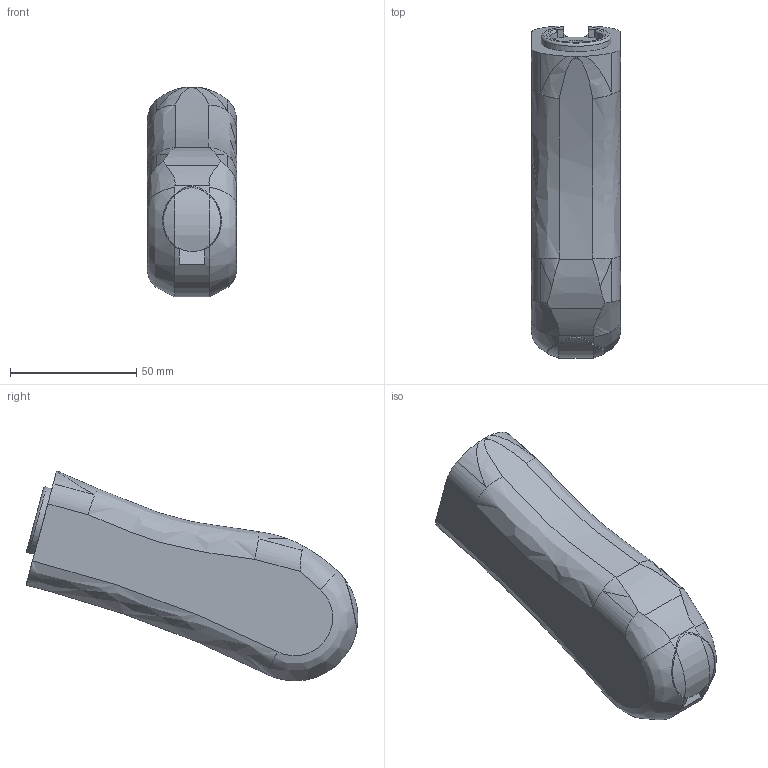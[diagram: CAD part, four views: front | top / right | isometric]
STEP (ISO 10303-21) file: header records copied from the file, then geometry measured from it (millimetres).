
FILE_DESCRIPTION(/* description */ (''),/* implementation_level */ '2;1');
FILE_NAME(/* name */ 'G:/Developer/Repos/Superstar-15/STEPs/Grip/Birdshead Grip.step',/* time_stamp */ '2020-10-31T21:54:54-04:00',/* author */ (''),/* organization */ (''),/* preprocessor_version */ 'ST-DEVELOPER v18.1',/* originating_system */ 'Autodesk Translation Framework v9.3.0.1241',/* authorisation */ '');
FILE_SCHEMA (('AUTOMOTIVE_DESIGN { 1 0 10303 214 3 1 1 }'));
Length unit declared in the file: millimetre
Products named in the file (1): Birdshead Grip
Bounding box: 35.27 x 131.4 x 83.1 mm (x, y, z)
Volume: 182210.4 mm3; surface area: 28250.3 mm2
Topology: 2 solids, 2 shells, 74 faces, 190 edges, 123 vertices
Faces by surface type: plane 30, cylinder 24, bspline 16, torus 3, cone 1
Full cylindrical faces by diameter (mm): 8.5 x1, 13.25 x1, 22.59 x1, 23.25 x1
Entity records: 3517 total; most frequent: CARTESIAN_POINT 1802, ORIENTED_EDGE 380, DIRECTION 304, EDGE_CURVE 190, VERTEX_POINT 123, AXIS2_PLACEMENT_3D 112, LINE 80, VECTOR 80
